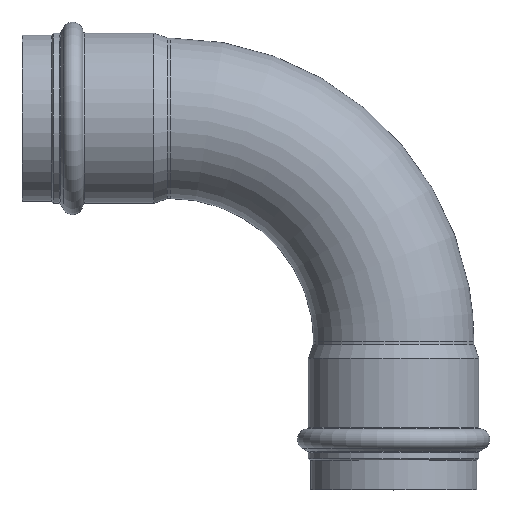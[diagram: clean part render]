
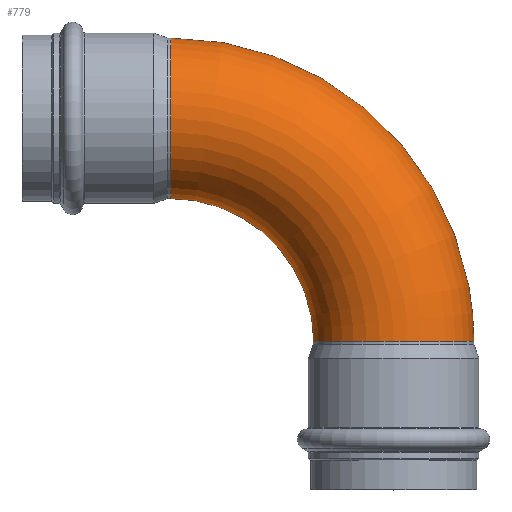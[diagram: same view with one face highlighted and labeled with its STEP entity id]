
A CAD part, top view. The second image highlights one B-rep face of the part: STEP entity #779.
In plain terms, the highlighted toroidal (fillet/blend) face has major radius 75 mm and minor radius 27 mm.
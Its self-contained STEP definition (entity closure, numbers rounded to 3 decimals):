
#752=CARTESIAN_POINT('',(0.,0.,0.0));
#753=DIRECTION('',(0.0,0.0,-1.0));
#754=DIRECTION('',(-1.0,0.0,0.0));
#755=AXIS2_PLACEMENT_3D('',#752,#753,#754);
#756=TOROIDAL_SURFACE('',#755,75.0,27.);
#757=CARTESIAN_POINT('',(75.,0.,27.));
#758=VERTEX_POINT('',#757);
#759=CARTESIAN_POINT('',(75.,0.,0.0));
#760=DIRECTION('',(0.0,-1.0,0.0));
#761=DIRECTION('',(1.0,0.0,0.0));
#762=AXIS2_PLACEMENT_3D('',#759,#760,#761);
#763=CIRCLE('',#762,27.);
#764=EDGE_CURVE('',#758,#758,#763,.T.);
#765=ORIENTED_EDGE('',*,*,#764,.F.);
#766=EDGE_LOOP('',(#765));
#767=FACE_OUTER_BOUND('',#766,.T.);
#768=CARTESIAN_POINT('',(0.,102.,0.0));
#769=VERTEX_POINT('',#768);
#770=CARTESIAN_POINT('',(0.,75.,0.0));
#771=DIRECTION('',(1.0,0.0,0.0));
#772=DIRECTION('',(0.0,1.0,0.0));
#773=AXIS2_PLACEMENT_3D('',#770,#771,#772);
#774=CIRCLE('',#773,27.);
#775=EDGE_CURVE('',#769,#769,#774,.T.);
#776=ORIENTED_EDGE('',*,*,#775,.T.);
#777=EDGE_LOOP('',(#776));
#778=FACE_BOUND('',#777,.T.);
#779=ADVANCED_FACE('',(#767,#778),#756,.T.);
